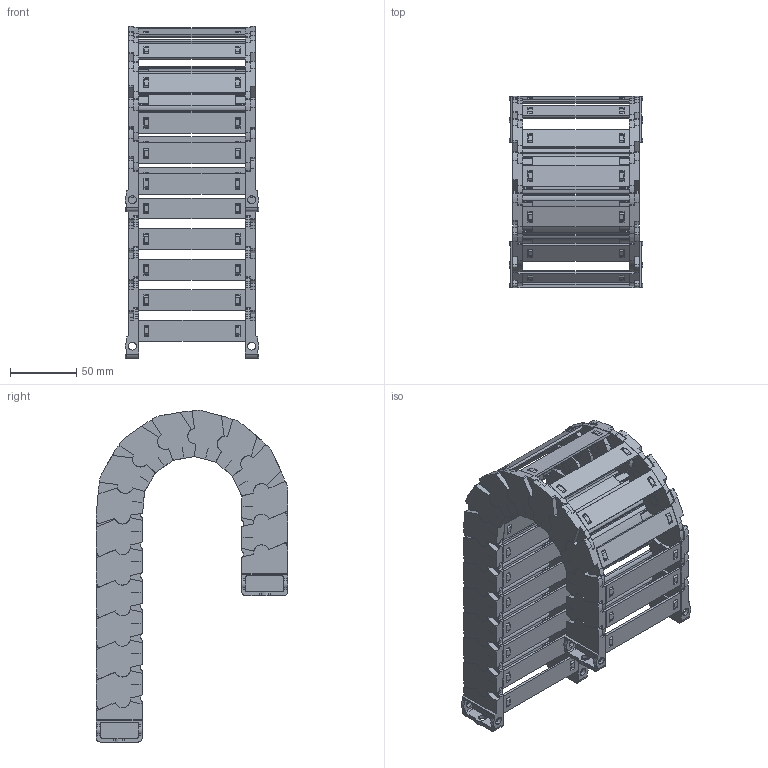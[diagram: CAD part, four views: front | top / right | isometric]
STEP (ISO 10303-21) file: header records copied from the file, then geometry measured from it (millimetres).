
FILE_DESCRIPTION((''),'2;1');
FILE_NAME('JY-25X80-R55_ASM','2022-05-07T10:13:45',('admin'),(''),'CREO PARAMETRIC BY PTC INC, 2021164','CREO PARAMETRIC BY PTC INC, 2021164','');
FILE_SCHEMA(('CONFIG_CONTROL_DESIGN','GEOMETRIC_VALIDATION_PROPERTIES_MIM'));
Length unit declared in the file: millimetre
Products named in the file (11): 25XL-L; 25-35XL-YP; 25XL-R; ASM0001_ASM; 25-LTT-A-L; 25-LTT-A-R; 25XL-LTT-A_ASM; 25-LTT-B-L; 25-LTT-B-R; 25XL-LTT-B_ASM; JY-25X80-R55_ASM
Assembly tree (29 placements, depth 3):
  JY-25X80-R55_ASM
    ASM0001_ASM  x15
      25XL-L
      25-35XL-YP
      25XL-R
    25XL-LTT-A_ASM
      25-LTT-A-L
      25-35XL-YP  x2
      25-LTT-A-R
    25XL-LTT-B_ASM
      25-LTT-B-L
      25-35XL-YP  x2
      25-LTT-B-R
Bounding box: 101.17 x 144.67 x 250.78 mm (x, y, z)
Volume: 329189 mm3; surface area: 244632.2 mm2
Topology: 68 solids, 83 shells, 3544 faces, 10581 edges, 7156 vertices
Faces by surface type: plane 2605, cylinder 909, cone 30
Entity records: 24023 total; most frequent: CARTESIAN_POINT 3114, DIRECTION 3009, ORIENTED_EDGE 2962, EDGE_CURVE 1483, PRESENTATION_STYLE_ASSIGNMENT 1413, STYLED_ITEM 1381, VECTOR 1053, LINE 1053
